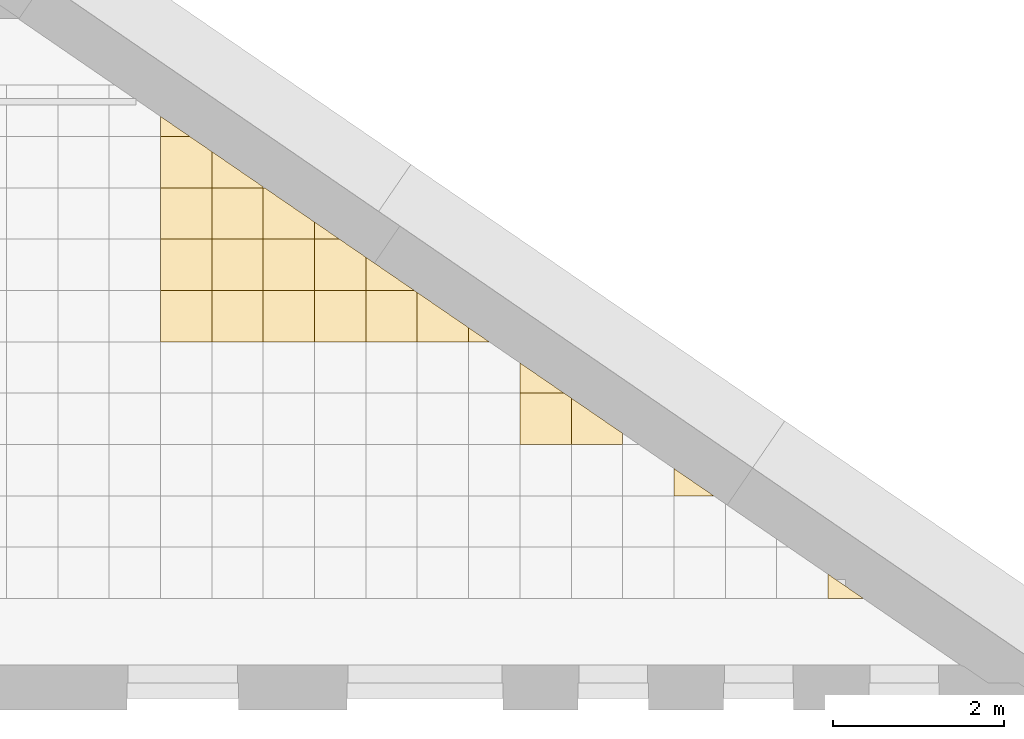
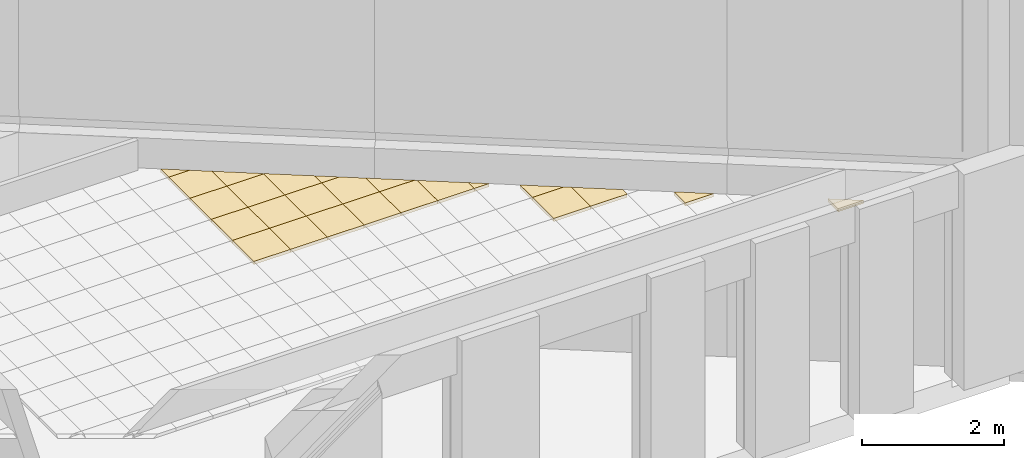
# One storey, part 78 of 79: 24 coverings.
"""IFC2X3 building model written with IfcOpenShell, lengths in millimetres."""

import ifcopenshell
import ifcopenshell.guid

model = None  # the IFC model being written
_history = None  # IfcOwnerHistory: only IFC2X3 demands one
_inside = {}  # id of a spatial element -> (the spatial element, [elements in it])
_under = {}  # id of a project, library or spatial element -> (it, [spatial elements below it])
_declared = {}  # id of a project -> (the project, [libraries it declares])
_typed = {}  # id of a type object -> (the type object, [elements of that type])
_made_of = {}  # id of a material, layer set ... -> (it, [elements and type objects made of it])


def new_model(schema):
    """Start an empty IFC model of exactly this schema.

    Asked for "IFC4X3", IfcOpenShell would pick the latest addendum, in which some entities
    have other attributes; the version numbers below select the first issue.
    IFC2X3 requires an IfcOwnerHistory on every rooted entity: one is made here for all.
    """
    global model, _history
    if schema == "IFC4X3":
        model = ifcopenshell.file(schema_version=(4, 3, 0, 0))
    else:
        model = ifcopenshell.file(schema=schema)
    _inside.clear()
    _under.clear()
    _declared.clear()
    _typed.clear()
    _made_of.clear()
    _history = None
    if model.schema == "IFC2X3":
        org = make("IfcOrganization", Name="unknown")
        user = make(
            "IfcPersonAndOrganization",
            ThePerson=make("IfcPerson", FamilyName="unknown"),
            TheOrganization=org,
        )
        app = make(
            "IfcApplication",
            ApplicationDeveloper=org,
            Version="unknown",
            ApplicationFullName="unknown",
            ApplicationIdentifier="unknown",
        )
        _history = make(
            "IfcOwnerHistory",
            OwningUser=user,
            OwningApplication=app,
            ChangeAction="ADDED",
            CreationDate=0,
        )
    return model


def make(cls, **values):
    """One entity of the class cls with the attributes given. An attribute that is None is left unset."""
    return model.create_entity(
        cls, **{name: value for name, value in values.items() if value is not None}
    )


def entity(cls, *values):
    """Any entity or typed value of the class cls, its attributes in the order of the schema. None: left unset."""
    e = model.create_entity(cls)
    for i, value in enumerate(values):
        if value is not None:
            e[i] = value
    return e


def rooted(cls, **values):
    """An entity with a GlobalId (a new one), such as an element, a storey or a relation."""
    return make(cls, GlobalId=ifcopenshell.guid.new(), OwnerHistory=_history, **values)


def si_unit(unit_type, name, prefix=None):
    """IfcSIUnit, for example si_unit("LENGTHUNIT", "METRE", prefix="MILLI")."""
    return make("IfcSIUnit", UnitType=unit_type, Prefix=prefix, Name=name)


def converted_unit(unit_type, name, factor, base, dimensions=None, offset=None):
    """IfcConversionBasedUnit, such as the inch: factor (a typed value) times the base unit."""
    return make(
        "IfcConversionBasedUnit"
        if offset is None
        else "IfcConversionBasedUnitWithOffset",
        ConversionOffset=offset,
        Dimensions=None
        if dimensions is None
        else entity("IfcDimensionalExponents", *dimensions),
        UnitType=unit_type,
        Name=name,
        ConversionFactor=make(
            "IfcMeasureWithUnit", ValueComponent=factor, UnitComponent=base
        ),
    )


def derived_unit(unit_type, elements):
    """IfcDerivedUnit: a product of units, each with its exponent."""
    return make(
        "IfcDerivedUnit",
        Elements=[
            make("IfcDerivedUnitElement", Unit=unit, Exponent=power)
            for unit, power in elements
        ],
        UnitType=unit_type,
    )


def money_unit(currency):
    """IfcMonetaryUnit."""
    return make("IfcMonetaryUnit", Currency=currency)


def assignment(units):
    """IfcUnitAssignment: the units of a project."""
    return None if units is None else make("IfcUnitAssignment", Units=units)


def point(xyz):
    """IfcCartesianPoint."""
    return None if xyz is None else make("IfcCartesianPoint", Coordinates=xyz)


def direction(xyz):
    """IfcDirection."""
    return None if xyz is None else make("IfcDirection", DirectionRatios=xyz)


def frame(location, z_axis=None, x_axis=None):
    """IfcAxis2Placement3D, a coordinate frame: its origin and axes. An axis left out is left unset."""
    return make(
        "IfcAxis2Placement3D",
        Location=point(location),
        Axis=direction(z_axis),
        RefDirection=direction(x_axis),
    )


def origin_with_axes():
    """The frame at (0, 0, 0) with the z axis (0, 0, 1) and the x axis (1, 0, 0) written out."""
    return frame((0.0, 0.0, 0.0), z_axis=(0.0, 0.0, 1.0), x_axis=(1.0, 0.0, 0.0))


def place(relative_to, where):
    """IfcLocalPlacement: puts the frame where relative to a parent placement (None: the world)."""
    return make(
        "IfcLocalPlacement", PlacementRelTo=relative_to, RelativePlacement=where
    )


def context(
    kind, dimensions, precision=None, world=None, true_north=None, identifier=None
):
    """IfcGeometricRepresentationContext, for example the 3D "Model" context."""
    return make(
        "IfcGeometricRepresentationContext",
        ContextIdentifier=identifier,
        ContextType=kind,
        CoordinateSpaceDimension=dimensions,
        Precision=precision,
        WorldCoordinateSystem=world,
        TrueNorth=true_north,
    )


def subcontext(parent, identifier, kind, view, scale=None):
    """IfcGeometricRepresentationSubContext, for example "Body" below "Model"."""
    return make(
        "IfcGeometricRepresentationSubContext",
        ContextIdentifier=identifier,
        ContextType=kind,
        ParentContext=parent,
        TargetScale=scale,
        TargetView=view,
    )


def project(units=None, contexts=None):
    """IfcProject with its units and contexts."""
    return rooted(
        "IfcProject",
        Name="project",
        RepresentationContexts=contexts,
        UnitsInContext=assignment(units),
    )


def spatial(cls, under=None, at=None, **own):
    """A site, building, storey or space (cls), placed at a placement, below another one or the project."""
    s = rooted(cls, ObjectPlacement=at, **own)
    if under is not None:
        _under.setdefault(under.id(), (under, []))[1].append(s)
    return s


def faces_of(points, faces, orient=None, outer=None):
    """IfcFace entities. A face is a list of loops; a loop is a list of indices into points, from 0.

    orient and outer hold one flag for each loop. By default every Orientation is true, the
    first loop of a face is its IfcFaceOuterBound and the others are IfcFaceBound.
    """
    made = []
    for i, loops in enumerate(faces):
        bounds = []
        for j, loop in enumerate(loops):
            is_outer = j == 0 if outer is None else outer[i][j]
            bounds.append(
                make(
                    "IfcFaceOuterBound" if is_outer else "IfcFaceBound",
                    Bound=make("IfcPolyLoop", Polygon=[points[k] for k in loop]),
                    Orientation=True if orient is None else orient[i][j],
                )
            )
        made.append(make("IfcFace", Bounds=bounds))
    return made


def faceted_brep(points, faces, orient=None, outer=None, voids=None):
    """IfcFacetedBrep: a solid bounded by flat faces; with voids (closed shells), ...WithVoids."""
    shared = [point(p) for p in points]
    hull = make("IfcClosedShell", CfsFaces=faces_of(shared, faces, orient, outer))
    if voids is None:
        return make("IfcFacetedBrep", Outer=hull)
    return make(
        "IfcFacetedBrepWithVoids",
        Outer=hull,
        Voids=[
            make(cls, CfsFaces=faces_of(shared, fs, o, b)) for cls, fs, o, b in voids
        ],
    )


def shape(context_of_items, identifier, shape_type, items):
    """IfcShapeRepresentation: the items that make up one representation, for example the "Body"."""
    return make(
        "IfcShapeRepresentation",
        ContextOfItems=context_of_items,
        RepresentationIdentifier=identifier,
        RepresentationType=shape_type,
        Items=items,
    )


def material(Name=None, Category=None):
    """IfcMaterial."""
    return make("IfcMaterial", Name=Name, Category=Category)


def material_list(materials):
    """IfcMaterialList."""
    return make("IfcMaterialList", Materials=materials)


def made_of(thing, what):
    """Note that an element or type object is made of a material, layer set ...; save() writes the relation."""
    if what is not None:
        _made_of.setdefault(what.id(), (what, []))[1].append(thing)
    return thing


def type_object(cls, material=None, **own):
    """A type object (cls), such as IfcWallType, which elements share."""
    return made_of(rooted(cls, **own), material)


def element(
    cls,
    number,
    at=None,
    inside=None,
    cuts=None,
    type_object=None,
    material=None,
    context=None,
    identifier="Body",
    shape_type=None,
    held_by="IfcProductDefinitionShape",
    body=None,
    shapes=None,
    **own,
):
    """One element of the class cls, such as IfcWall. Its Tag is "e" and its number.

    at: its placement. inside: the storey or other place that contains it. cuts: it is an
    opening in that element (IfcRelVoidsElement). A single representation is given by context,
    identifier, shape_type and body (its items); several are given by shapes. held_by: the class
    of the entity that holds the representations. save() writes the other relations.
    """
    e = rooted(cls, Tag="e%d" % number, ObjectPlacement=at, **own)
    if body is not None:
        shapes = [shape(context, identifier, shape_type, body)]
    if shapes is not None:
        e.Representation = make(held_by, Representations=shapes)
    if inside is not None:
        _inside.setdefault(inside.id(), (inside, []))[1].append(e)
    if cuts is not None:
        rooted(
            "IfcRelVoidsElement", RelatingBuildingElement=cuts, RelatedOpeningElement=e
        )
    if type_object is not None:
        _typed.setdefault(type_object.id(), (type_object, []))[1].append(e)
    return made_of(e, material)


def aggregate(whole, parts):
    """IfcRelAggregates: a whole, such as a stair, and the parts it consists of."""
    return rooted("IfcRelAggregates", RelatingObject=whole, RelatedObjects=parts)


def save(model, path):
    """Write the relations noted so far, then the file.

    IfcRelAggregates (storeys below a building ...), IfcRelContainedInSpatialStructure (elements
    in a storey), IfcRelDefinesByType, IfcRelAssociatesMaterial and IfcRelDeclares: one each for
    every whole, place, type object, material and project.
    """
    for whole, parts in _under.values():
        aggregate(whole, parts)
    for where, things in _inside.values():
        rooted(
            "IfcRelContainedInSpatialStructure",
            RelatedElements=things,
            RelatingStructure=where,
        )
    for kind, things in _typed.values():
        rooted("IfcRelDefinesByType", RelatedObjects=things, RelatingType=kind)
    for what, things in _made_of.values():
        rooted("IfcRelAssociatesMaterial", RelatedObjects=things, RelatingMaterial=what)
    for by, libraries in _declared.values():
        rooted("IfcRelDeclares", RelatingContext=by, RelatedDefinitions=libraries)
    model.write(path)


model = new_model("IFC2X3")

# Units and contexts
model_context = context("Model", 3, precision=0.01, world=origin_with_axes(), true_north=direction((0.0, 1.0)))
body_context = subcontext(model_context, "Body", "Model", "MODEL_VIEW")
ifc_project = project(units=[si_unit("LENGTHUNIT", "METRE", prefix="MILLI"), si_unit("AREAUNIT", "SQUARE_METRE"), si_unit("VOLUMEUNIT", "CUBIC_METRE"), converted_unit("PLANEANGLEUNIT", "DEGREE", entity("IfcPlaneAngleMeasure", 0.0174532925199), si_unit("PLANEANGLEUNIT", "RADIAN"), dimensions=[0, 0, 0, 0, 0, 0, 0]), si_unit("SOLIDANGLEUNIT", "STERADIAN"), money_unit("EUR"), converted_unit("TIMEUNIT", "Year", entity("IfcTimeMeasure", 31556926.0), si_unit("TIMEUNIT", "SECOND"), dimensions=[0, 0, 1, 0, 0, 0, 0]), si_unit("MASSUNIT", "GRAM", prefix="KILO"), si_unit("THERMODYNAMICTEMPERATUREUNIT", "DEGREE_CELSIUS"), si_unit("LUMINOUSINTENSITYUNIT", "LUMEN"), si_unit("ENERGYUNIT", "JOULE", prefix="MEGA"), derived_unit("THERMALCONDUCTANCEUNIT", [(si_unit("POWERUNIT", "WATT"), 1), (si_unit("LENGTHUNIT", "METRE"), -1), (si_unit("THERMODYNAMICTEMPERATUREUNIT", "KELVIN"), -1)]), derived_unit("SPECIFICHEATCAPACITYUNIT", [(si_unit("ENERGYUNIT", "JOULE"), 1), (si_unit("MASSUNIT", "GRAM", prefix="KILO"), -1), (si_unit("THERMODYNAMICTEMPERATUREUNIT", "KELVIN"), -1)]), derived_unit("MASSDENSITYUNIT", [(si_unit("MASSUNIT", "GRAM", prefix="KILO"), 1), (si_unit("VOLUMEUNIT", "CUBIC_METRE"), -1)])], contexts=[model_context])

# Site, building, storey
site_placement = place(None, origin_with_axes())
site = spatial("IfcSite", under=ifc_project, at=site_placement, Name="L.Koidula tn 11b", CompositionType="ELEMENT")
building_placement = place(site_placement, origin_with_axes())
building = spatial("IfcBuilding", under=site, at=building_placement, Name="Rakvere Riigigümnaasium", CompositionType="ELEMENT")
storey_placement = place(building_placement, frame((0.0, 0.0, 3720.0), z_axis=(0.0, 0.0, 1.0), x_axis=(1.0, 0.0, 0.0)))
storey = spatial("IfcBuildingStorey", under=building, at=storey_placement, Name="2.korrus +3,72", CompositionType="ELEMENT", Elevation=3720.0)

# Coverings
ifc_material_1 = material(Name="Karkass")
ifc_material_2 = material(Name="Kipsplaat")
ifc_material_list = material_list([ifc_material_1, ifc_material_2])
covering_type = type_object("IfcCoveringType", Name="SA-LV-Kips-moodul 55", PredefinedType="CEILING")
covering_1_placement = place(storey_placement, frame((94709.8849318, 9290.45359412, 2750.0), z_axis=(0.0, 0.0, 1.0), x_axis=(1.0, 0.0, 0.0)))
element("IfcCovering", 1, at=covering_1_placement, inside=storey, type_object=covering_type, material=ifc_material_list, Name="L-03", PredefinedType="CEILING", context=body_context, shape_type="Brep", body=[
    faceted_brep([(600.0, 0.0, 12.5), (600.0, 0.0, 54.5), (0.0, 0.0, 54.5), (0.0, 0.0, 12.5), (600.0, 600.0, 12.5), (600.0, 600.0, 54.5), (0.0, 600.0, 54.5), (0.0, 600.0, 12.5)], [[[0, 1, 2, 3]], [[4, 5, 1, 0]], [[2, 1, 5, 6]], [[3, 2, 6, 7]], [[3, 7, 4, 0]], [[7, 6, 5, 4]]]),
    faceted_brep([(0.0, 0.0, 0.0), (600.0, 0.0, 0.0), (600.0, 0.0, 12.5), (0.0, 0.0, 12.5), (0.0, 600.0, 0.0), (600.0, 600.0, 0.0), (600.0, 600.0, 12.5), (0.0, 600.0, 12.5)], [[[0, 1, 2, 3]], [[0, 4, 5, 1]], [[1, 5, 6, 2]], [[3, 2, 6, 7]], [[4, 0, 3, 7]], [[5, 4, 7, 6]]]),
])
covering_2_placement = place(storey_placement, frame((98309.8847768, 8090.45359412, 2750.0), z_axis=(0.0, 0.0, 1.0), x_axis=(1.0, 0.0, 0.0)))
element("IfcCovering", 2, at=covering_2_placement, inside=storey, type_object=covering_type, material=ifc_material_list, Name="L-03", PredefinedType="CEILING", context=body_context, shape_type="Brep", body=[
    faceted_brep([(600.0, 0.0, 12.5), (600.0, 0.0, 54.5), (0.0, 0.0, 54.5), (0.0, 0.0, 12.5), (600.0, 130.709496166, 12.5), (600.0, 130.709496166, 54.5), (0.0, 542.235969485, 54.5), (0.0, 542.235969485, 12.5)], [[[0, 1, 2, 3]], [[4, 5, 1, 0]], [[2, 1, 5, 6]], [[3, 2, 6, 7]], [[3, 7, 4, 0]], [[7, 6, 5, 4]]]),
    faceted_brep([(0.0, 0.0, 0.0), (600.0, 0.0, 0.0), (600.0, 0.0, 12.5), (0.0, 0.0, 12.5), (0.0, 542.235969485, 0.0), (600.0, 130.709496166, 0.0), (600.0, 130.709496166, 12.5), (0.0, 542.235969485, 12.5)], [[[0, 1, 2, 3]], [[0, 4, 5, 1]], [[1, 5, 6, 2]], [[3, 2, 6, 7]], [[4, 0, 3, 7]], [[5, 4, 7, 6]]]),
])
covering_3_placement = place(storey_placement, frame((97109.8848284, 9290.45359412, 2750.0), z_axis=(0.0, 0.0, 1.0), x_axis=(1.0, 0.0, 0.0)))
element("IfcCovering", 3, at=covering_3_placement, inside=storey, type_object=covering_type, material=ifc_material_list, Name="L-03", PredefinedType="CEILING", context=body_context, shape_type="Brep", body=[
    faceted_brep([(240.988248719, 0.0, 12.5), (240.988248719, 0.0, 54.5), (0.0, 0.0, 54.5), (0.0, 0.0, 12.5), (0.0, 165.288406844, 12.5), (0.0, 165.288406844, 54.5)], [[[0, 1, 2, 3]], [[4, 5, 1, 0]], [[2, 1, 5]], [[3, 2, 5, 4]], [[3, 4, 0]]]),
    faceted_brep([(0.0, 0.0, 0.0), (240.988248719, 0.0, 0.0), (240.988248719, 0.0, 12.5), (0.0, 0.0, 12.5), (0.0, 165.288406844, 0.0), (0.0, 165.288406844, 12.5)], [[[0, 1, 2, 3]], [[0, 4, 1]], [[1, 4, 5, 2]], [[3, 2, 5]], [[4, 0, 3, 5]]]),
])
covering_4_placement = place(storey_placement, frame((96509.8848801, 9290.45359412, 2750.0), z_axis=(0.0, 0.0, 1.0), x_axis=(1.0, 0.0, 0.0)))
element("IfcCovering", 4, at=covering_4_placement, inside=storey, type_object=covering_type, material=ifc_material_list, Name="L-03", PredefinedType="CEILING", context=body_context, shape_type="Brep", body=[
    faceted_brep([(599.999948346, 0.0, 12.5), (599.999948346, 0.0, 54.5), (0.0, 0.0, 54.5), (0.0, 0.0, 12.5), (599.999948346, 165.288185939, 12.5), (599.999948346, 165.288185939, 54.5), (0.0, 576.81462383, 54.5), (0.0, 576.81462383, 12.5)], [[[0, 1, 2, 3]], [[4, 5, 1, 0]], [[2, 1, 5, 6]], [[3, 2, 6, 7]], [[3, 7, 4, 0]], [[7, 6, 5, 4]]]),
    faceted_brep([(0.0, 0.0, 0.0), (599.999948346, 0.0, 0.0), (599.999948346, 0.0, 12.5), (0.0, 0.0, 12.5), (0.0, 576.81462383, 0.0), (599.999948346, 165.288185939, 0.0), (599.999948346, 165.288185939, 12.5), (0.0, 576.81462383, 12.5)], [[[0, 1, 2, 3]], [[0, 4, 5, 1]], [[1, 5, 6, 2]], [[3, 2, 6, 7]], [[4, 0, 3, 7]], [[5, 4, 7, 6]]]),
])
covering_5_placement = place(storey_placement, frame((99509.8847251, 7490.45359412, 2750.0), z_axis=(0.0, 0.0, 1.0), x_axis=(1.0, 0.0, 0.0)))
element("IfcCovering", 5, at=covering_5_placement, inside=storey, type_object=covering_type, material=ifc_material_list, Name="L-03", PredefinedType="CEILING", context=body_context, shape_type="Brep", body=[
    faceted_brep([(465.364878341, 0.0, 12.5), (465.364878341, 0.0, 54.5), (0.0, 0.0, 54.5), (0.0, 0.0, 12.5), (0.0, 319.18327865, 12.5), (0.0, 319.18327865, 54.5)], [[[0, 1, 2, 3]], [[4, 5, 1, 0]], [[2, 1, 5]], [[3, 2, 5, 4]], [[3, 4, 0]]]),
    faceted_brep([(0.0, 0.0, 0.0), (465.364878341, 0.0, 0.0), (465.364878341, 0.0, 12.5), (0.0, 0.0, 12.5), (0.0, 319.18327865, 0.0), (0.0, 319.18327865, 12.5)], [[[0, 1, 2, 3]], [[0, 4, 1]], [[1, 4, 5, 2]], [[3, 2, 5]], [[4, 0, 3, 5]]]),
])
covering_6_placement = place(storey_placement, frame((97709.8848284, 8690.45359412, 2750.0), z_axis=(0.0, 0.0, 1.0), x_axis=(1.0, 0.0, 0.0)))
element("IfcCovering", 6, at=covering_6_placement, inside=storey, type_object=covering_type, material=ifc_material_list, Name="L-03", PredefinedType="CEILING", context=body_context, shape_type="Brep", body=[
    faceted_brep([(515.780477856, 0.0, 12.5), (515.780477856, 0.0, 54.5), (0.0, 0.0, 54.5), (0.0, 0.0, 12.5), (0.0, 353.762201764, 12.5), (0.0, 353.762201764, 54.5)], [[[0, 1, 2, 3]], [[4, 5, 1, 0]], [[2, 1, 5]], [[3, 2, 5, 4]], [[3, 4, 0]]]),
    faceted_brep([(0.0, 0.0, 0.0), (515.780477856, 0.0, 0.0), (515.780477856, 0.0, 12.5), (0.0, 0.0, 12.5), (0.0, 353.762201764, 0.0), (0.0, 353.762201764, 12.5)], [[[0, 1, 2, 3]], [[0, 4, 1]], [[1, 4, 5, 2]], [[3, 2, 5]], [[4, 0, 3, 5]]]),
])
covering_7_placement = place(storey_placement, frame((101309.884673, 6290.45359412, 2750.0), z_axis=(0.0, 0.0, 1.0), x_axis=(1.0, 0.0, 0.0)))
element("IfcCovering", 7, at=covering_7_placement, inside=storey, type_object=covering_type, material=ifc_material_list, Name="L-03", PredefinedType="CEILING", context=body_context, shape_type="Brep", body=[
    faceted_brep([(414.950028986, 0.0, 12.5), (414.950028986, 0.0, 54.5), (0.0, 0.0, 54.5), (0.0, 0.0, 12.5), (0.0, 284.604870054, 12.5), (0.0, 284.604870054, 54.5)], [[[0, 1, 2, 3]], [[4, 5, 1, 0]], [[2, 1, 5]], [[3, 2, 5, 4]], [[3, 4, 0]]]),
    faceted_brep([(0.0, 0.0, 0.0), (414.950028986, 0.0, 0.0), (414.950028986, 0.0, 12.5), (0.0, 0.0, 12.5), (0.0, 284.604870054, 0.0), (0.0, 284.604870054, 12.5)], [[[0, 1, 2, 3]], [[0, 4, 1]], [[1, 4, 5, 2]], [[3, 2, 5]], [[4, 0, 3, 5]]]),
])
covering_8_placement = place(storey_placement, frame((97709.8848284, 8090.45359412, 2750.0), z_axis=(0.0, 0.0, 1.0), x_axis=(1.0, 0.0, 0.0)))
element("IfcCovering", 8, at=covering_8_placement, inside=storey, type_object=covering_type, material=ifc_material_list, Name="L-03", PredefinedType="CEILING", context=body_context, shape_type="Brep", body=[
    faceted_brep([(599.999948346, 0.0, 12.5), (599.999948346, 0.0, 54.5), (0.0, 0.0, 54.5), (0.0, 0.0, 12.5), (599.999948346, 542.235763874, 12.5), (599.999948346, 542.235763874, 54.5), (515.780477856, 600.0, 54.5), (0.0, 600.0, 54.5), (0.0, 600.0, 12.5), (515.780477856, 600.0, 12.5)], [[[0, 1, 2, 3]], [[4, 5, 1, 0]], [[2, 1, 5, 6, 7]], [[3, 2, 7, 8]], [[3, 8, 9, 4, 0]], [[9, 6, 5, 4]], [[8, 7, 6, 9]]]),
    faceted_brep([(0.0, 0.0, 0.0), (599.999948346, 0.0, 0.0), (599.999948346, 0.0, 12.5), (0.0, 0.0, 12.5), (0.0, 600.0, 0.0), (515.780477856, 600.0, 0.0), (599.999948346, 542.235763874, 0.0), (599.999948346, 542.235763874, 12.5), (515.780477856, 600.0, 12.5), (0.0, 600.0, 12.5)], [[[0, 1, 2, 3]], [[0, 4, 5, 6, 1]], [[1, 6, 7, 2]], [[3, 2, 7, 8, 9]], [[4, 0, 3, 9]], [[5, 4, 9, 8]], [[6, 5, 8, 7]]]),
])
covering_9_placement = place(storey_placement, frame((94709.8849318, 10490.4535941, 2750.0), z_axis=(0.0, 0.0, 1.0), x_axis=(1.0, 0.0, 0.0)))
element("IfcCovering", 9, at=covering_9_placement, inside=storey, type_object=covering_type, material=ifc_material_list, Name="L-03", PredefinedType="CEILING", context=body_context, shape_type="Brep", body=[
    faceted_brep([(600.0, 0.0, 12.5), (600.0, 0.0, 54.5), (0.0, 0.0, 54.5), (0.0, 0.0, 12.5), (600.0, 199.866815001, 12.5), (600.0, 199.866815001, 54.5), (16.6112593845, 600.0, 54.5), (0.0, 600.0, 54.5), (0.0, 600.0, 12.5), (16.6112593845, 600.0, 12.5)], [[[0, 1, 2, 3]], [[4, 5, 1, 0]], [[2, 1, 5, 6, 7]], [[3, 2, 7, 8]], [[3, 8, 9, 4, 0]], [[9, 6, 5, 4]], [[8, 7, 6, 9]]]),
    faceted_brep([(0.0, 0.0, 0.0), (600.0, 0.0, 0.0), (600.0, 0.0, 12.5), (0.0, 0.0, 12.5), (0.0, 600.0, 0.0), (16.6112593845, 600.0, 0.0), (600.0, 199.866815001, 0.0), (600.0, 199.866815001, 12.5), (16.6112593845, 600.0, 12.5), (0.0, 600.0, 12.5)], [[[0, 1, 2, 3]], [[0, 4, 5, 6, 1]], [[1, 6, 7, 2]], [[3, 2, 7, 8, 9]], [[4, 0, 3, 9]], [[5, 4, 9, 8]], [[6, 5, 8, 7]]]),
])
covering_10_placement = place(storey_placement, frame((94709.8849318, 9890.45359412, 2750.0), z_axis=(0.0, 0.0, 1.0), x_axis=(1.0, 0.0, 0.0)))
element("IfcCovering", 10, at=covering_10_placement, inside=storey, type_object=covering_type, material=ifc_material_list, Name="L-03", PredefinedType="CEILING", context=body_context, shape_type="Brep", body=[
    faceted_brep([(600.0, 0.0, 12.5), (600.0, 0.0, 54.5), (0.0, 0.0, 54.5), (0.0, 0.0, 12.5), (600.0, 600.0, 12.5), (600.0, 600.0, 54.5), (0.0, 600.0, 54.5), (0.0, 600.0, 12.5)], [[[0, 1, 2, 3]], [[4, 5, 1, 0]], [[2, 1, 5, 6]], [[3, 2, 6, 7]], [[3, 7, 4, 0]], [[7, 6, 5, 4]]]),
    faceted_brep([(0.0, 0.0, 0.0), (600.0, 0.0, 0.0), (600.0, 0.0, 12.5), (0.0, 0.0, 12.5), (0.0, 600.0, 0.0), (600.0, 600.0, 0.0), (600.0, 600.0, 12.5), (0.0, 600.0, 12.5)], [[[0, 1, 2, 3]], [[0, 4, 5, 1]], [[1, 5, 6, 2]], [[3, 2, 6, 7]], [[4, 0, 3, 7]], [[5, 4, 7, 6]]]),
])
covering_11_placement = place(storey_placement, frame((95909.8848801, 9890.45359412, 2750.0), z_axis=(0.0, 0.0, 1.0), x_axis=(1.0, 0.0, 0.0)))
element("IfcCovering", 11, at=covering_11_placement, inside=storey, type_object=covering_type, material=ifc_material_list, Name="L-03", PredefinedType="CEILING", context=body_context, shape_type="Brep", body=[
    faceted_brep([(566.195746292, 0.0, 12.5), (566.195746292, 0.0, 54.5), (0.0, 0.0, 54.5), (0.0, 0.0, 12.5), (0.0, 388.340897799, 12.5), (0.0, 388.340897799, 54.5)], [[[0, 1, 2, 3]], [[4, 5, 1, 0]], [[2, 1, 5]], [[3, 2, 5, 4]], [[3, 4, 0]]]),
    faceted_brep([(0.0, 0.0, 0.0), (566.195746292, 0.0, 0.0), (566.195746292, 0.0, 12.5), (0.0, 0.0, 12.5), (0.0, 388.340897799, 0.0), (0.0, 388.340897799, 12.5)], [[[0, 1, 2, 3]], [[0, 4, 1]], [[1, 4, 5, 2]], [[3, 2, 5]], [[4, 0, 3, 5]]]),
])
covering_12_placement = place(storey_placement, frame((95309.8849318, 9890.45359412, 2750.0), z_axis=(0.0, 0.0, 1.0), x_axis=(1.0, 0.0, 0.0)))
element("IfcCovering", 12, at=covering_12_placement, inside=storey, type_object=covering_type, material=ifc_material_list, Name="L-03", PredefinedType="CEILING", context=body_context, shape_type="Brep", body=[
    faceted_brep([(599.999948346, 0.0, 12.5), (599.999948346, 0.0, 54.5), (0.0, 0.0, 54.5), (0.0, 0.0, 12.5), (599.999948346, 388.340703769, 12.5), (599.999948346, 388.340703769, 54.5), (291.403573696, 600.0, 54.5), (0.0, 600.0, 54.5), (0.0, 600.0, 12.5), (291.403573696, 600.0, 12.5)], [[[0, 1, 2, 3]], [[4, 5, 1, 0]], [[2, 1, 5, 6, 7]], [[3, 2, 7, 8]], [[3, 8, 9, 4, 0]], [[9, 6, 5, 4]], [[8, 7, 6, 9]]]),
    faceted_brep([(0.0, 0.0, 0.0), (599.999948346, 0.0, 0.0), (599.999948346, 0.0, 12.5), (0.0, 0.0, 12.5), (0.0, 600.0, 0.0), (291.403573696, 600.0, 0.0), (599.999948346, 388.340703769, 0.0), (599.999948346, 388.340703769, 12.5), (291.403573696, 600.0, 12.5), (0.0, 600.0, 12.5)], [[[0, 1, 2, 3]], [[0, 4, 5, 6, 1]], [[1, 6, 7, 2]], [[3, 2, 7, 8, 9]], [[4, 0, 3, 9]], [[5, 4, 9, 8]], [[6, 5, 8, 7]]]),
])
covering_13_placement = place(storey_placement, frame((95909.8848801, 9290.45359412, 2750.0), z_axis=(0.0, 0.0, 1.0), x_axis=(1.0, 0.0, 0.0)))
element("IfcCovering", 13, at=covering_13_placement, inside=storey, type_object=covering_type, material=ifc_material_list, Name="L-03", PredefinedType="CEILING", context=body_context, shape_type="Brep", body=[
    faceted_brep([(600.0, 0.0, 12.5), (600.0, 0.0, 54.5), (0.0, 0.0, 54.5), (0.0, 0.0, 12.5), (600.0, 576.814172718, 12.5), (600.0, 576.814172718, 54.5), (566.195379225, 600.0, 54.5), (0.0, 600.0, 54.5), (0.0, 600.0, 12.5), (566.195379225, 600.0, 12.5)], [[[0, 1, 2, 3]], [[4, 5, 1, 0]], [[2, 1, 5, 6, 7]], [[3, 2, 7, 8]], [[3, 8, 9, 4, 0]], [[9, 6, 5, 4]], [[8, 7, 6, 9]]]),
    faceted_brep([(0.0, 0.0, 0.0), (600.0, 0.0, 0.0), (600.0, 0.0, 12.5), (0.0, 0.0, 12.5), (0.0, 600.0, 0.0), (566.195379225, 600.0, 0.0), (600.0, 576.814172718, 0.0), (600.0, 576.814172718, 12.5), (566.195379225, 600.0, 12.5), (0.0, 600.0, 12.5)], [[[0, 1, 2, 3]], [[0, 4, 5, 6, 1]], [[1, 6, 7, 2]], [[3, 2, 7, 8, 9]], [[4, 0, 3, 9]], [[5, 4, 9, 8]], [[6, 5, 8, 7]]]),
])
covering_14_placement = place(storey_placement, frame((95309.8849318, 10490.4535941, 2750.0), z_axis=(0.0, 0.0, 1.0), x_axis=(1.0, 0.0, 0.0)))
element("IfcCovering", 14, at=covering_14_placement, inside=storey, type_object=covering_type, material=ifc_material_list, Name="L-03", PredefinedType="CEILING", context=body_context, shape_type="Brep", body=[
    faceted_brep([(291.403471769, 0.0, 12.5), (291.403471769, 0.0, 54.5), (0.0, 0.0, 54.5), (0.0, 0.0, 12.5), (0.0, 199.86707175, 12.5), (0.0, 199.86707175, 54.5)], [[[0, 1, 2, 3]], [[4, 5, 1, 0]], [[2, 1, 5]], [[3, 2, 5, 4]], [[3, 4, 0]]]),
    faceted_brep([(0.0, 0.0, 0.0), (291.403471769, 0.0, 0.0), (291.403471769, 0.0, 12.5), (0.0, 0.0, 12.5), (0.0, 199.86707175, 0.0), (0.0, 199.86707175, 12.5)], [[[0, 1, 2, 3]], [[0, 4, 1]], [[1, 4, 5, 2]], [[3, 2, 5]], [[4, 0, 3, 5]]]),
])
for number, where, z_axis, x_axis, name in (
    (15, (95309.8849318, 9290.45359412, 2750.0), (0.0, 0.0, 1.0), (1.0, 0.0, 0.0), "L-03"),
    (16, (94109.8849834, 9890.45359412, 2750.0), (0.0, 0.0, 1.0), (1.0, 0.0, 0.0), "L-03"),
    (17, (94109.8849834, 9290.45359412, 2750.0), (0.0, 0.0, 1.0), (1.0, 0.0, 0.0), "L-03"),
):
    element("IfcCovering", number, at=place(storey_placement, frame(where, z_axis=z_axis, x_axis=x_axis)), inside=storey, type_object=covering_type, material=ifc_material_list, Name=name, PredefinedType="CEILING", context=body_context, shape_type="Brep", body=[
        faceted_brep([(599.999948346, 0.0, 12.5), (599.999948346, 0.0, 54.5), (0.0, 0.0, 54.5), (0.0, 0.0, 12.5), (599.999948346, 600.0, 12.5), (599.999948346, 600.0, 54.5), (0.0, 600.0, 54.5), (0.0, 600.0, 12.5)], [[[0, 1, 2, 3]], [[4, 5, 1, 0]], [[2, 1, 5, 6]], [[3, 2, 6, 7]], [[3, 7, 4, 0]], [[7, 6, 5, 4]]]),
        faceted_brep([(0.0, 0.0, 0.0), (599.999948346, 0.0, 0.0), (599.999948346, 0.0, 12.5), (0.0, 0.0, 12.5), (0.0, 600.0, 0.0), (599.999948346, 600.0, 0.0), (599.999948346, 600.0, 12.5), (0.0, 600.0, 12.5)], [[[0, 1, 2, 3]], [[0, 4, 5, 1]], [[1, 5, 6, 2]], [[3, 2, 6, 7]], [[4, 0, 3, 7]], [[5, 4, 7, 6]]]),
    ])
covering_15_placement = place(storey_placement, frame((94109.8849834, 10490.4535941, 2750.0), z_axis=(0.0, 0.0, 1.0), x_axis=(1.0, 0.0, 0.0)))
element("IfcCovering", 18, at=covering_15_placement, inside=storey, type_object=covering_type, material=ifc_material_list, Name="L-03", PredefinedType="CEILING", context=body_context, shape_type="Brep", body=[
    faceted_brep([(599.999948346, 0.0, 12.5), (599.999948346, 0.0, 54.5), (0.0, 0.0, 54.5), (0.0, 0.0, 12.5), (599.994938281, 600.0, 12.5), (599.994938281, 600.0, 54.5), (0.0, 600.0, 54.5), (0.0, 600.0, 12.5)], [[[0, 1, 2, 3]], [[4, 5, 1, 0]], [[2, 1, 5, 6]], [[3, 2, 6, 7]], [[3, 7, 4, 0]], [[7, 6, 5, 4]]]),
    faceted_brep([(0.0, 0.0, 0.0), (599.999948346, 0.0, 0.0), (599.999948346, 0.0, 12.5), (0.0, 0.0, 12.5), (0.0, 600.0, 0.0), (599.994938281, 600.0, 0.0), (599.994938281, 600.0, 12.5), (0.0, 600.0, 12.5)], [[[0, 1, 2, 3]], [[0, 4, 5, 1]], [[1, 5, 6, 2]], [[3, 2, 6, 7]], [[4, 0, 3, 7]], [[5, 4, 7, 6]]]),
])
covering_16_placement = place(storey_placement, frame((94109.8849834, 11090.4535941, 2750.0), z_axis=(0.0, 0.0, 1.0), x_axis=(1.0, 0.0, 0.0)))
element("IfcCovering", 19, at=covering_16_placement, inside=storey, type_object=covering_type, material=ifc_material_list, Name="L-03", PredefinedType="CEILING", context=body_context, shape_type="Brep", body=[
    faceted_brep([(599.999948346, 0.0, 12.5), (599.999948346, 0.0, 54.5), (0.0, 0.0, 54.5), (0.0, 0.0, 12.5), (599.999948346, 11.3935572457, 12.5), (599.999948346, 11.3935572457, 54.5), (0.0, 422.919995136, 54.5), (0.0, 422.919995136, 12.5)], [[[0, 1, 2, 3]], [[4, 5, 1, 0]], [[2, 1, 5, 6]], [[3, 2, 6, 7]], [[3, 7, 4, 0]], [[7, 6, 5, 4]]]),
    faceted_brep([(0.0, 0.0, 0.0), (599.999948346, 0.0, 0.0), (599.999948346, 0.0, 12.5), (0.0, 0.0, 12.5), (0.0, 422.919995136, 0.0), (599.999948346, 11.3935572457, 0.0), (599.999948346, 11.3935572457, 12.5), (0.0, 422.919995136, 12.5)], [[[0, 1, 2, 3]], [[0, 4, 5, 1]], [[1, 5, 6, 2]], [[3, 2, 6, 7]], [[4, 0, 3, 7]], [[5, 4, 7, 6]]]),
])
covering_17_placement = place(storey_placement, frame((93509.8849834, 11090.4535941, 2750.0), z_axis=(0.0, 0.0, 1.0), x_axis=(1.0, 0.0, 0.0)))
element("IfcCovering", 20, at=covering_17_placement, inside=storey, type_object=covering_type, material=ifc_material_list, Name="L-03", PredefinedType="CEILING", context=body_context, shape_type="Brep", body=[
    faceted_brep([(600.0, 0.0, 12.5), (600.0, 0.0, 54.5), (0.0, 0.0, 54.5), (0.0, 0.0, 12.5), (600.0, 422.919995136, 12.5), (600.0, 422.919995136, 54.5), (341.819761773, 600.0, 54.5), (0.0, 600.0, 54.5), (0.0, 600.0, 12.5), (341.819761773, 600.0, 12.5)], [[[0, 1, 2, 3]], [[4, 5, 1, 0]], [[2, 1, 5, 6, 7]], [[3, 2, 7, 8]], [[3, 8, 9, 4, 0]], [[9, 6, 5, 4]], [[8, 7, 6, 9]]]),
    faceted_brep([(0.0, 0.0, 0.0), (600.0, 0.0, 0.0), (600.0, 0.0, 12.5), (0.0, 0.0, 12.5), (0.0, 600.0, 0.0), (341.819761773, 600.0, 0.0), (600.0, 422.919995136, 0.0), (600.0, 422.919995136, 12.5), (341.819761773, 600.0, 12.5), (0.0, 600.0, 12.5)], [[[0, 1, 2, 3]], [[0, 4, 5, 6, 1]], [[1, 6, 7, 2]], [[3, 2, 7, 8, 9]], [[4, 0, 3, 9]], [[5, 4, 9, 8]], [[6, 5, 8, 7]]]),
])
for number, where, z_axis, x_axis, name in (
    (21, (93509.8849834, 10490.4535941, 2750.0), (0.0, 0.0, 1.0), (1.0, 0.0, 0.0), "L-03"),
    (22, (93509.8849834, 9890.45359412, 2750.0), (0.0, 0.0, 1.0), (1.0, 0.0, 0.0), "L-03"),
    (23, (93509.8849834, 9290.45359412, 2750.0), (0.0, 0.0, 1.0), (1.0, 0.0, 0.0), "L-03"),
):
    element("IfcCovering", number, at=place(storey_placement, frame(where, z_axis=z_axis, x_axis=x_axis)), inside=storey, type_object=covering_type, material=ifc_material_list, Name=name, PredefinedType="CEILING", context=body_context, shape_type="Brep", body=[
        faceted_brep([(600.0, 0.0, 12.5), (600.0, 0.0, 54.5), (0.0, 0.0, 54.5), (0.0, 0.0, 12.5), (600.0, 600.0, 12.5), (600.0, 600.0, 54.5), (0.0, 600.0, 54.5), (0.0, 600.0, 12.5)], [[[0, 1, 2, 3]], [[4, 5, 1, 0]], [[2, 1, 5, 6]], [[3, 2, 6, 7]], [[3, 7, 4, 0]], [[7, 6, 5, 4]]]),
        faceted_brep([(0.0, 0.0, 0.0), (600.0, 0.0, 0.0), (600.0, 0.0, 12.5), (0.0, 0.0, 12.5), (0.0, 600.0, 0.0), (600.0, 600.0, 0.0), (600.0, 600.0, 12.5), (0.0, 600.0, 12.5)], [[[0, 1, 2, 3]], [[0, 4, 5, 1]], [[1, 5, 6, 2]], [[3, 2, 6, 7]], [[4, 0, 3, 7]], [[5, 4, 7, 6]]]),
    ])
covering_18_placement = place(storey_placement, frame((93509.8849834, 11690.4535941, 2750.0), z_axis=(0.0, 0.0, 1.0), x_axis=(1.0, 0.0, 0.0)))
element("IfcCovering", 24, at=covering_18_placement, inside=storey, type_object=covering_type, material=ifc_material_list, Name="L-03", PredefinedType="CEILING", context=body_context, shape_type="Brep", body=[
    faceted_brep([(341.819761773, 0.0, 12.5), (341.819761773, 0.0, 54.5), (0.0, 0.0, 54.5), (0.0, 0.0, 12.5), (0.0, 234.446468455, 12.5), (0.0, 234.446468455, 54.5)], [[[0, 1, 2, 3]], [[4, 5, 1, 0]], [[2, 1, 5]], [[3, 2, 5, 4]], [[3, 4, 0]]]),
    faceted_brep([(0.0, 0.0, 0.0), (341.819761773, 0.0, 0.0), (341.819761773, 0.0, 12.5), (0.0, 0.0, 12.5), (0.0, 234.446468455, 0.0), (0.0, 234.446468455, 12.5)], [[[0, 1, 2, 3]], [[0, 4, 1]], [[1, 4, 5, 2]], [[3, 2, 5]], [[4, 0, 3, 5]]]),
])

save(model, "model.ifc")
